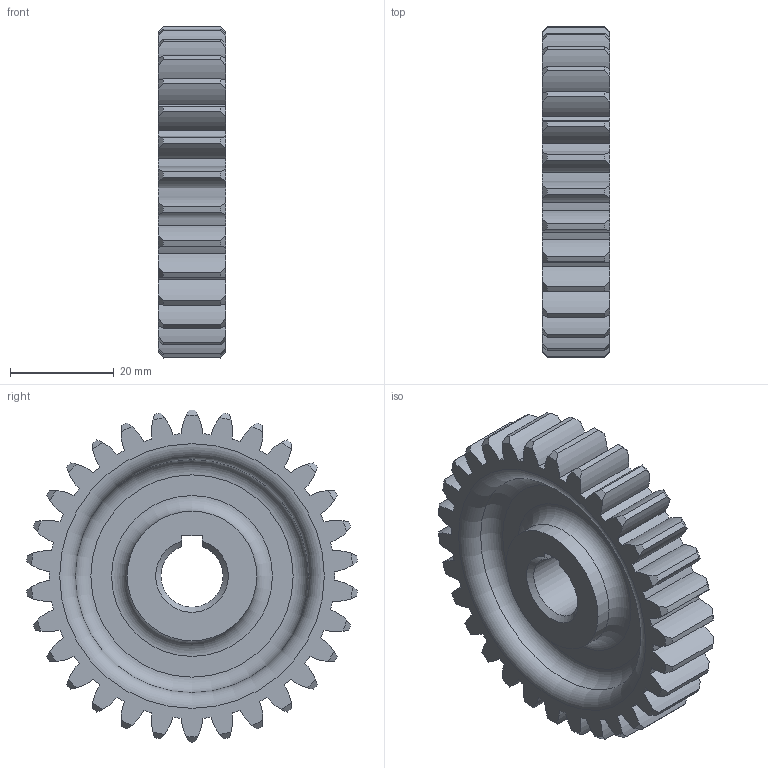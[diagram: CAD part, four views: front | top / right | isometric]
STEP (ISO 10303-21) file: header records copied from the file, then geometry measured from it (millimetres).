
FILE_DESCRIPTION(/* description */ (''),/* implementation_level */ '2;1');
FILE_NAME(/* name */ 'C:\Users\user\Desktop\381209E1003\381209E1003-스퍼기어.stp',/* time_stamp */ '2018-12-08T10:15:31+09:00',/* author */ ('user'),/* organization */ (''),/* preprocessor_version */ 'ST-DEVELOPER v15.6',/* originating_system */ 'Autodesk Inventor 2015',/* authorisation */ '');
FILE_SCHEMA (('AUTOMOTIVE_DESIGN { 1 0 10303 214 3 1 1 }'));
Length unit declared in the file: millimetre
Products named in the file (1): 381209E1003-스퍼기어
Bounding box: 13 x 63.76 x 64 mm (x, y, z)
Volume: 28205.9 mm3; surface area: 11485.2 mm2
Topology: 1 solids, 1 shells, 194 faces, 568 edges, 378 vertices
Faces by surface type: cylinder 122, cone 62, plane 7, torus 3
Full cylindrical faces by diameter (mm): 25 x1
Entity records: 6730 total; most frequent: CARTESIAN_POINT 1505, DIRECTION 1140, ORIENTED_EDGE 1128, EDGE_CURVE 564, AXIS2_PLACEMENT_3D 505, VERTEX_POINT 378, CIRCLE 310, EDGE_LOOP 202
